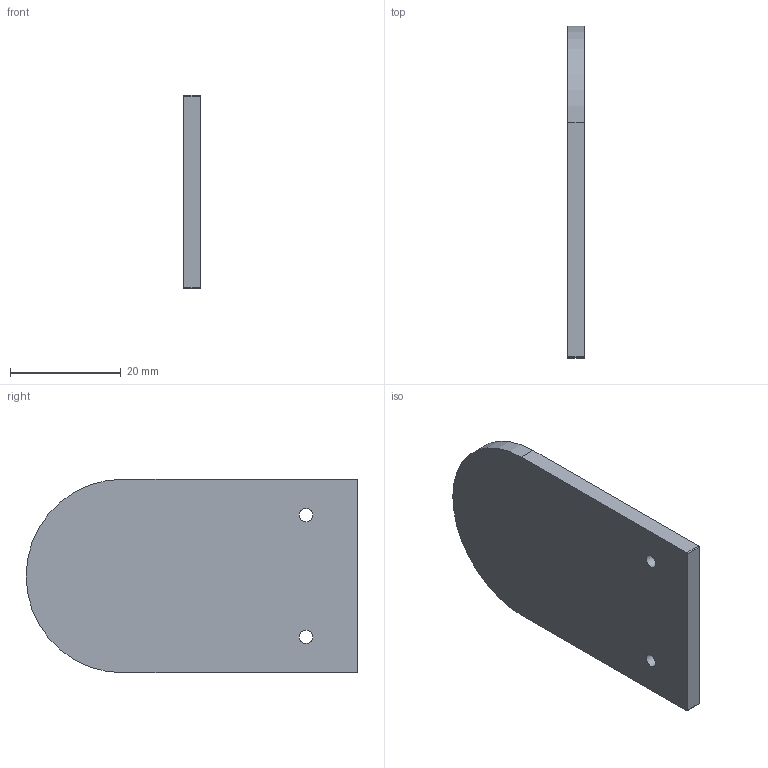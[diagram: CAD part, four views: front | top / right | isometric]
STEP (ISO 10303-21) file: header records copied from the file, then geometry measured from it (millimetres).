
FILE_DESCRIPTION (( 'STEP AP214' ), '1' );
FILE_NAME ('3535 Endcap Round.STEP', '2026-04-20T12:29:09', ( '' ), ( '' ), 'SwSTEP 2.0', 'SolidWorks 2025', '' );
FILE_SCHEMA (( 'AUTOMOTIVE_DESIGN' ));
Length unit declared in the file: millimetre
Products named in the file (1): 3535 Endcap Round
Bounding box: 3 x 60 x 35 mm (x, y, z)
Volume: 5868.8 mm3; surface area: 4482.4 mm2
Topology: 1 solids, 1 shells, 12 faces, 28 edges, 18 vertices
Faces by surface type: cylinder 5, plane 5, cone 2
Full cylindrical faces by diameter (mm): 2.4 x2
Entity records: 359 total; most frequent: DIRECTION 62, CARTESIAN_POINT 55, ORIENTED_EDGE 48, AXIS2_PLACEMENT_3D 25, EDGE_CURVE 24, EDGE_LOOP 20, VERTEX_POINT 18, FACE_OUTER_BOUND 14
